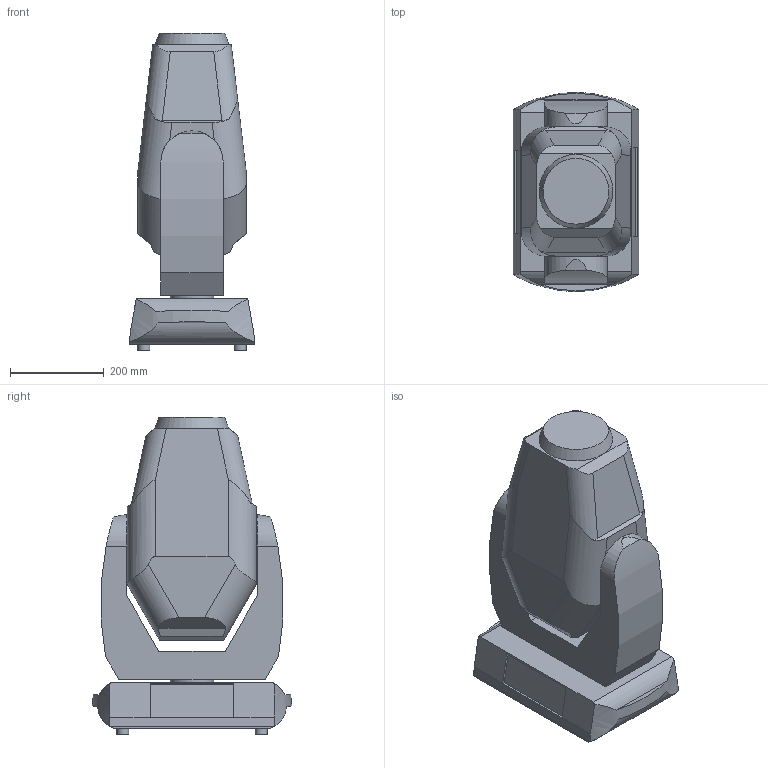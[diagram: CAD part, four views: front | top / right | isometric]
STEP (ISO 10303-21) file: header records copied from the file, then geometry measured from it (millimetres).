
FILE_DESCRIPTION(/* description */ ('Unknown'),/* implementation_level */ '2;1');
FILE_NAME(/* name */ '3D_Robin DL4S',/* time_stamp */ '2020-04-14T15:49:03+02:00',/* author */ ('Ing.Rostislav HĂˇba'),/* organization */ ('ROBE lighting'),/* preprocessor_version */ 'ST-DEVELOPER v16.7',/* originating_system */ 'Solid Edge',/* authorisation */ 'Unknown');
FILE_SCHEMA (('AUTOMOTIVE_DESIGN {1 0 10303 214 3 1 1}'));
Length unit declared in the file: millimetre
Products named in the file (4): Robin DL4S; RamenoDLXS; ZákladnaDLXS; HlavaDLXS
Assembly tree (3 placements, depth 2):
  Robin DL4S
    RamenoDLXS
    ZákladnaDLXS
    HlavaDLXS
Bounding box: 267.69 x 426.08 x 678 mm (x, y, z)
Volume: 39078998.6 mm3; surface area: 1114100.6 mm2
Topology: 3 solids, 3 shells, 108 faces, 271 edges, 184 vertices
Faces by surface type: plane 71, cylinder 34, cone 3
Full cylindrical faces by diameter (mm): 13 x4, 25.843 x4, 70 x4, 92.6 x1, 94.485 x1
Entity records: 3395 total; most frequent: CARTESIAN_POINT 766, DIRECTION 544, ORIENTED_EDGE 492, EDGE_CURVE 246, AXIS2_PLACEMENT_3D 210, VERTEX_POINT 174, EDGE_LOOP 138, FACE_BOUND 138
